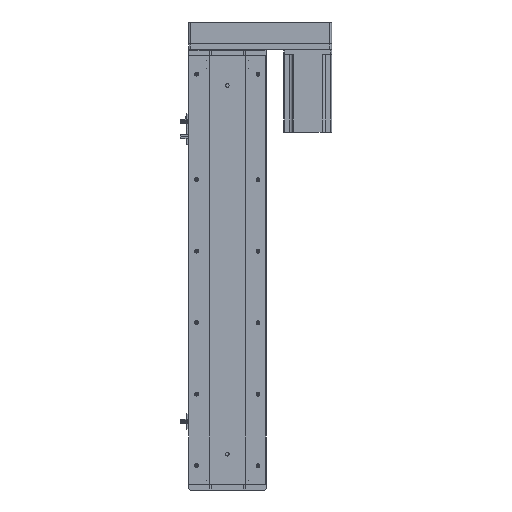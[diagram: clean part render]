
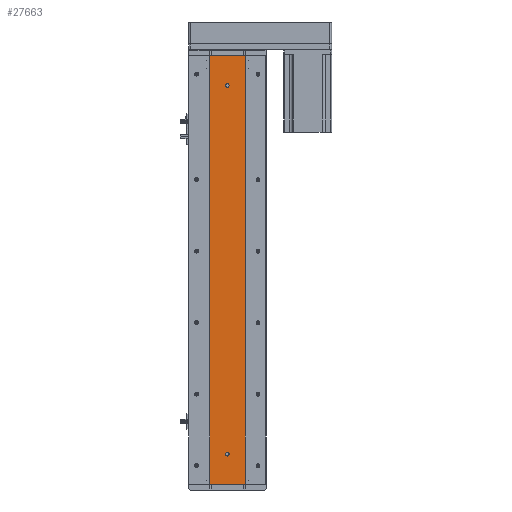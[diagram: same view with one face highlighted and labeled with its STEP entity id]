
A CAD part, left-side view. The second image highlights one B-rep face of the part: STEP entity #27663.
In plain terms, the highlighted planar face has unit normal (-1, 0, 0).
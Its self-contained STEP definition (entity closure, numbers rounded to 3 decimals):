
#32 = VERTEX_POINT ( 'NONE', #15561 ) ;
#172 = DIRECTION ( 'NONE',  ( 0., -1., 0. ) ) ;
#225 = DIRECTION ( 'NONE',  ( 1., 0., 0. ) ) ;
#2019 = EDGE_CURVE ( 'NONE', #32, #26465, #23966, .T. ) ;
#2472 = VECTOR ( 'NONE', #13547, 1000. ) ;
#2823 = FACE_BOUND ( 'NONE', #7989, .T. ) ;
#3608 = VERTEX_POINT ( 'NONE', #18155 ) ;
#4167 = ORIENTED_EDGE ( 'NONE', *, *, #18610, .F. ) ;
#4205 = LINE ( 'NONE', #42301, #29344 ) ;
#5506 = VECTOR ( 'NONE', #8323, 1000. ) ;
#7989 = EDGE_LOOP ( 'NONE', ( #38715, #39819 ) ) ;
#8297 = EDGE_CURVE ( 'NONE', #22630, #40245, #13827, .T. ) ;
#8323 = DIRECTION ( 'NONE',  ( 0., 0., -1. ) ) ;
#8967 = DIRECTION ( 'NONE',  ( -1., 0., 0. ) ) ;
#9396 = VECTOR ( 'NONE', #19946, 1000. ) ;
#9729 = EDGE_CURVE ( 'NONE', #40245, #22630, #29085, .T. ) ;
#10185 = LINE ( 'NONE', #26616, #2472 ) ;
#11142 = CARTESIAN_POINT ( 'NONE',  ( -24.994, 0., 669. ) ) ;
#11588 = FACE_OUTER_BOUND ( 'NONE', #24392, .T. ) ;
#11810 = AXIS2_PLACEMENT_3D ( 'NONE', #11142, #34043, #14403 ) ;
#13088 = VERTEX_POINT ( 'NONE', #23382 ) ;
#13547 = DIRECTION ( 'NONE',  ( 0., -1., 0. ) ) ;
#13648 = ORIENTED_EDGE ( 'NONE', *, *, #39786, .F. ) ;
#13827 = CIRCLE ( 'NONE', #33781, 3. ) ;
#14403 = DIRECTION ( 'NONE',  ( 0., 0., 1. ) ) ;
#14597 = ORIENTED_EDGE ( 'NONE', *, *, #32061, .F. ) ;
#15240 = CARTESIAN_POINT ( 'NONE',  ( -24.994, 29.785, 0. ) ) ;
#15449 = AXIS2_PLACEMENT_3D ( 'NONE', #38208, #18527, #41466 ) ;
#15561 = CARTESIAN_POINT ( 'NONE',  ( -24.994, 29.785, 719. ) ) ;
#17284 = AXIS2_PLACEMENT_3D ( 'NONE', #19890, #225, #23168 ) ;
#18155 = CARTESIAN_POINT ( 'NONE',  ( -24.994, -29.785, 0. ) ) ;
#18447 = DIRECTION ( 'NONE',  ( -1., 0., 0. ) ) ;
#18527 = DIRECTION ( 'NONE',  ( -1., 0., 0. ) ) ;
#18610 = EDGE_CURVE ( 'NONE', #13088, #38311, #26658, .T. ) ;
#19890 = CARTESIAN_POINT ( 'NONE',  ( -24.994, 29.785, 719. ) ) ;
#19946 = DIRECTION ( 'NONE',  ( 0., 0., -1. ) ) ;
#20623 = ORIENTED_EDGE ( 'NONE', *, *, #20634, .F. ) ;
#20634 = EDGE_CURVE ( 'NONE', #32, #31571, #10185, .T. ) ;
#21453 = CARTESIAN_POINT ( 'NONE',  ( -24.994, 0., 672. ) ) ;
#22630 = VERTEX_POINT ( 'NONE', #26139 ) ;
#23168 = DIRECTION ( 'NONE',  ( 0., 0., -1. ) ) ;
#23382 = CARTESIAN_POINT ( 'NONE',  ( -24.994, 0., 666. ) ) ;
#23966 = LINE ( 'NONE', #34423, #5506 ) ;
#24392 = EDGE_LOOP ( 'NONE', ( #25612, #13648, #20623, #34970 ) ) ;
#25612 = ORIENTED_EDGE ( 'NONE', *, *, #40904, .T. ) ;
#25917 = CARTESIAN_POINT ( 'NONE',  ( -24.994, 0., 53. ) ) ;
#26139 = CARTESIAN_POINT ( 'NONE',  ( -24.994, 0., 47. ) ) ;
#26336 = PLANE ( 'NONE',  #17284 ) ;
#26465 = VERTEX_POINT ( 'NONE', #15240 ) ;
#26616 = CARTESIAN_POINT ( 'NONE',  ( -24.994, 29.785, 719. ) ) ;
#26658 = CIRCLE ( 'NONE', #33103, 3. ) ;
#27260 = CIRCLE ( 'NONE', #11810, 3. ) ;
#27663 = ADVANCED_FACE ( 'NONE', ( #29015, #2823, #11588 ), #26336, .F. ) ;
#28638 = CARTESIAN_POINT ( 'NONE',  ( -24.994, 0., 669. ) ) ;
#29015 = FACE_BOUND ( 'NONE', #34628, .T. ) ;
#29085 = CIRCLE ( 'NONE', #15449, 3. ) ;
#29344 = VECTOR ( 'NONE', #172, 1000. ) ;
#31571 = VERTEX_POINT ( 'NONE', #40692 ) ;
#31886 = DIRECTION ( 'NONE',  ( 0., 0., 1. ) ) ;
#32061 = EDGE_CURVE ( 'NONE', #38311, #13088, #27260, .T. ) ;
#33103 = AXIS2_PLACEMENT_3D ( 'NONE', #28638, #8967, #31886 ) ;
#33781 = AXIS2_PLACEMENT_3D ( 'NONE', #38120, #18447, #41380 ) ;
#34043 = DIRECTION ( 'NONE',  ( -1., 0., 0. ) ) ;
#34423 = CARTESIAN_POINT ( 'NONE',  ( -24.994, 29.785, 719. ) ) ;
#34537 = LINE ( 'NONE', #39570, #9396 ) ;
#34628 = EDGE_LOOP ( 'NONE', ( #14597, #4167 ) ) ;
#34970 = ORIENTED_EDGE ( 'NONE', *, *, #2019, .T. ) ;
#38120 = CARTESIAN_POINT ( 'NONE',  ( -24.994, 0., 50. ) ) ;
#38208 = CARTESIAN_POINT ( 'NONE',  ( -24.994, 0., 50. ) ) ;
#38311 = VERTEX_POINT ( 'NONE', #21453 ) ;
#38715 = ORIENTED_EDGE ( 'NONE', *, *, #9729, .F. ) ;
#39570 = CARTESIAN_POINT ( 'NONE',  ( -24.994, -29.785, 719. ) ) ;
#39786 = EDGE_CURVE ( 'NONE', #31571, #3608, #34537, .T. ) ;
#39819 = ORIENTED_EDGE ( 'NONE', *, *, #8297, .F. ) ;
#40245 = VERTEX_POINT ( 'NONE', #25917 ) ;
#40692 = CARTESIAN_POINT ( 'NONE',  ( -24.994, -29.785, 719. ) ) ;
#40904 = EDGE_CURVE ( 'NONE', #26465, #3608, #4205, .T. ) ;
#41380 = DIRECTION ( 'NONE',  ( 0., 0., 1. ) ) ;
#41466 = DIRECTION ( 'NONE',  ( 0., 0., 1. ) ) ;
#42301 = CARTESIAN_POINT ( 'NONE',  ( -24.994, 29.785, 0. ) ) ;
